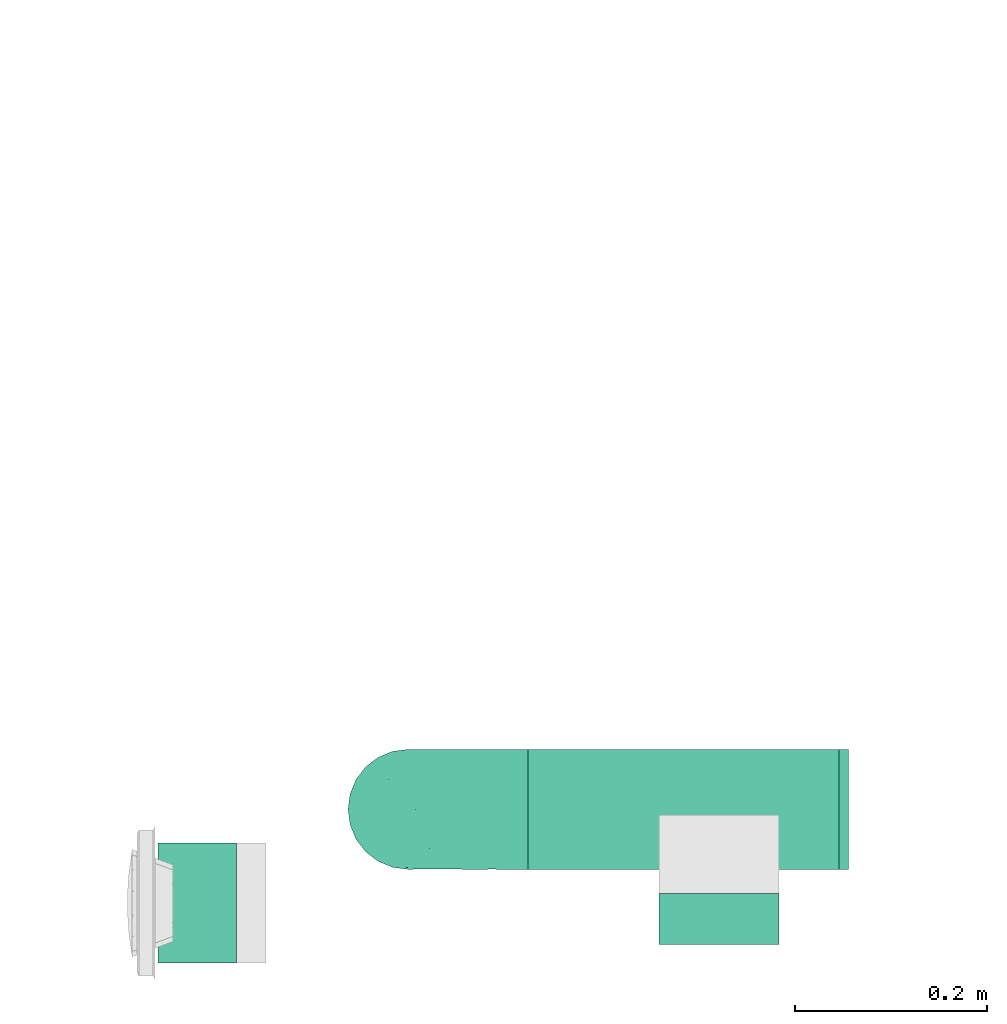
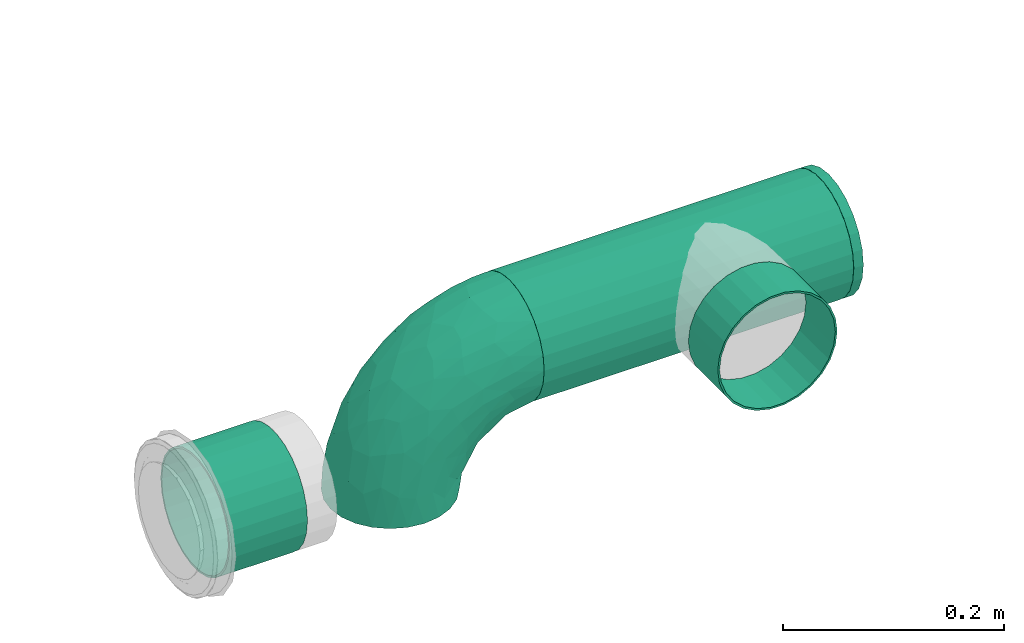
# One storey, part 4 of 63: 3 flow segments, 2 flow fittings.
"""IFC2X3 building model written with IfcOpenShell, lengths in millimetres."""

from ifc_helpers import new_model, entity, si_unit, converted_unit, derived_unit, direction, frame, origin_with_axes, origin_2d_with_axis, place, context, subcontext, project, spatial, hollow_circle, extrude, open_shell, surface_model, source, transform, mapped, type_object, element, save


model = new_model("IFC2X3")

# Units and contexts
model_context = context("Model", 3, precision=0.01, world=frame((0.0, 4.29681676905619e-09, 0.0)), true_north=direction((4.01073788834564e-13, 1.0)))
plan_context = context("Plan", 3, precision=0.01, world=frame((0.0, 4.29681676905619e-09, 0.0)), true_north=direction((4.01073788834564e-13, 1.0)))
body_context = subcontext(model_context, "Body", "Model", "MODEL_VIEW")
ifc_project = project(units=[converted_unit("PLANEANGLEUNIT", "DEGREE", entity("IfcPositiveLengthMeasure", 0.0174532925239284), si_unit("PLANEANGLEUNIT", "RADIAN"), dimensions=[0, 0, 0, 0, 0, 0, 0]), si_unit("AREAUNIT", "SQUARE_METRE"), si_unit("LENGTHUNIT", "METRE", prefix="MILLI"), si_unit("MASSUNIT", "GRAM", prefix="KILO"), si_unit("POWERUNIT", "WATT"), si_unit("PRESSUREUNIT", "PASCAL"), si_unit("FORCEUNIT", "NEWTON", prefix="KILO"), si_unit("ELECTRICVOLTAGEUNIT", "VOLT"), si_unit("ELECTRICCURRENTUNIT", "AMPERE"), si_unit("THERMODYNAMICTEMPERATUREUNIT", "DEGREE_CELSIUS"), si_unit("TIMEUNIT", "SECOND"), si_unit("VOLUMEUNIT", "CUBIC_METRE"), derived_unit("LINEARVELOCITYUNIT", [(si_unit("LENGTHUNIT", "METRE"), 1), (si_unit("TIMEUNIT", "SECOND"), -1)]), derived_unit("VOLUMETRICFLOWRATEUNIT", [(si_unit("VOLUMEUNIT", "CUBIC_METRE"), 1), (si_unit("TIMEUNIT", "SECOND"), -1)]), derived_unit("THERMALTRANSMITTANCEUNIT", [(si_unit("POWERUNIT", "WATT"), 1), (si_unit("THERMODYNAMICTEMPERATUREUNIT", "KELVIN"), -1), (si_unit("AREAUNIT", "SQUARE_METRE"), -1)]), derived_unit("SOUNDPRESSUREUNIT", [(si_unit("PRESSUREUNIT", "PASCAL"), 1)])], contexts=[model_context, plan_context])

# Site, building, storey
site_placement = place(None, frame((0.0, -4.29681676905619e-09, 0.0), z_axis=(0.0, 0.0, 1.0), x_axis=(1.0, 0.0, 0.0)))
site = spatial("IfcSite", under=ifc_project, at=site_placement, CompositionType="ELEMENT")
building_placement = place(site_placement, frame((0.0, 4.29681676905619e-09, 0.0), z_axis=(0.0, 0.0, 1.0), x_axis=(1.0, 0.0, 0.0)))
building = spatial("IfcBuilding", under=site, at=building_placement, Name="mc-building", CompositionType="ELEMENT")
storey_placement = place(building_placement, frame((0.0, 0.0, 210900.0), z_axis=(0.0, 0.0, 1.0), x_axis=(1.0, 0.0, 0.0)))
storey = spatial("IfcBuildingStorey", under=building, at=storey_placement, Name="Nivå F", CompositionType="ELEMENT", Elevation=210900.0)

# Flow fittings
duct_fitting_type_1 = type_object("IfcDuctFittingType", Name="magicirc_elbow_full_radius_001", PredefinedType="BEND")
shared_shape_1 = source(origin_with_axes(), body_context, "Body", "SurfaceModel", [
    surface_model("IfcShellBasedSurfaceModel", [(-125.0, 16.17619, -60.37037), (-125.0, 0.0, -62.5), (-125.0, 44.19417, -44.19417), (-125.0, 31.25, -54.12659), (-125.0, 60.37037, -16.17619), (-125.0, 54.12659, -31.25), (-125.0, -16.17619, -60.37037), (-125.0, -31.25, -54.12659), (-125.0, -44.19417, -44.19417), (-125.0, -54.12659, -31.25), (-125.0, -60.37037, -16.17619), (-125.0, -62.5, 0.0), (-125.0, 62.5, 0.0), (-125.0, -31.25, 54.12659), (-125.0, 60.37037, 16.17619), (-125.0, 54.12659, 31.25), (-125.0, 16.17619, 60.37037), (-125.0, 31.25, 54.12659), (-125.0, 44.19417, 44.19417), (-125.0, -54.12659, 31.25), (-125.0, -44.19417, 44.19417), (-125.0, -60.37037, 16.17619), (-125.0, -16.17619, 60.37037), (-125.0, 0.0, 62.5), (-44.19417, 125.0, -44.19417), (0.0, 125.0, -62.5), (-16.17619, 125.0, -60.37037), (-31.25, 125.0, -54.12659), (-54.12659, 125.0, -31.25), (-60.37037, 125.0, -16.17619), (16.17619, 125.0, -60.37037), (44.19417, 125.0, -44.19417), (31.25, 125.0, -54.12659), (60.37037, 125.0, -16.17619), (54.12659, 125.0, -31.25), (62.5, 125.0, 0.0), (44.19417, 125.0, 44.19417), (31.25, 125.0, 54.12659), (-62.5, 125.0, 0.0), (-60.37037, 125.0, 16.17619), (-54.12659, 125.0, 31.25), (-16.17619, 125.0, 60.37037), (-44.19417, 125.0, 44.19417), (-31.25, 125.0, 54.12659), (60.37037, 125.0, 16.17619), (54.12659, 125.0, 31.25), (0.0, 125.0, 62.5), (16.17619, 125.0, 60.37037), (-92.0149, -48.59662, 35.11543), (-82.31101, -36.10079, 46.59002), (-83.27732, -57.79898, 0.0), (21.5934, 8.09566, 0.0), (6.68953, -6.68953, 12.50062), (-8.09566, -21.5934, 0.0), (-85.18285, -54.95352, 19.72452), (-63.86862, 108.10791, 10.69753), (-72.65264, 88.16475, 13.64847), (-58.85933, 108.47697, 26.01876), (28.68805, 50.93011, 42.73586), (15.24994, 48.30376, 51.88115), (13.33611, 22.15566, 40.76355), (-28.58034, -33.18174, 16.61251), (-55.80927, -40.00167, 31.60254), (-55.92901, -46.21073, 18.75923), (-43.6468, -43.93166, 0.0), (-11.16429, 11.16428, 51.09905), (-91.91541, -23.64007, 56.2333), (-48.30376, -15.24994, 51.88115), (-62.2246, -0.56088, 60.57833), (-86.05221, 71.09173, 22.01563), (-76.29757, 73.71528, 30.99181), (-95.48, -8.27954, 61.43109), (-21.72166, 61.46244, 62.38786), (-46.29465, 46.29465, 60.98138), (-37.21568, 27.31198, 62.17805), (-96.3442, 24.51222, 59.0402), (-23.33012, 107.80836, 58.54242), (-8.56588, 93.49118, 62.34649), (-87.52028, 9.58041, 62.39347), (-90.8433, 62.14568, 32.36992), (-104.65631, 61.64741, 22.10298), (-108.67612, 63.76169, 10.43133), (-88.81041, 72.98575, 10.36437), (36.10079, 82.31101, 46.59002), (-22.15566, -13.33612, 40.76355), (-97.70214, 52.10141, 41.01675), (33.18174, 28.58034, 16.61251), (43.93166, 43.6468, 0.0), (-108.13323, 37.84893, 50.9265), (-16.31425, 41.86087, 61.36861), (-31.05498, 11.46575, 58.36241), (-6.38494, 33.76703, 57.43674), (23.64007, 91.91541, 56.2333), (8.27954, 95.48, 61.43109), (40.00167, 55.80927, 31.60254), (47.31258, 55.33607, 14.21495), (57.79898, 83.27732, 0.0), (54.95352, 85.18285, 19.72452), (48.59662, 92.0149, 35.11543), (-51.08394, 80.06201, 49.23756), (-51.34965, 100.68876, 40.68918), (-65.88145, 69.79931, 44.27158), (-67.25753, 101.08228, 0.0), (-66.7509, 56.0836, 51.93913), (-47.27423, 67.56375, 55.69769), (-80.80582, 80.80582, 0.0), (-101.08228, 67.25753, 0.0), (-27.0301, 84.68903, 59.52251), (-39.49549, 96.79785, 51.80473), (-4.68934, 4.68934, 43.22247), (2.91368, -2.91368, 27.95973), (-68.67967, 26.77168, 61.38152), (-61.32894, 15.31518, 62.47333), (-66.44476, 42.40788, 57.80884), (-86.06534, 42.42608, 52.63144), (-36.4073, 64.87811, 59.87196), (0.56088, 62.2246, 60.57833), (-50.92891, -28.66756, 42.755), (-64.50927, 88.5041, 30.85553), (-27.43118, -26.16339, 29.83954), (22.73426, 21.43212, 28.89237), (-90.73911, 40.97988, -52.27133), (-51.05944, -15.77315, -52.43613), (-54.27147, -0.77962, -59.44482), (-25.11169, -1.04586, -51.21226), (-98.94229, 7.90272, -62.29658), (-67.16143, 94.52638, -18.73917), (-96.1712, 24.53976, -59.04752), (-57.8841, 72.64103, -48.12601), (-44.50916, 76.42373, -54.27754), (-57.76281, 57.76281, -54.8772), (-107.28047, 64.03146, -11.08737), (-59.60363, -46.85882, -20.9596), (-91.17795, -55.95169, -20.37554), (-87.70528, 72.36167, -15.72738), (37.33987, 90.42119, -47.18844), (21.5694, 79.15007, -55.58604), (24.6394, 105.55614, -56.88213), (-98.81833, 51.80612, -40.89409), (-75.37655, 57.2746, -47.13743), (-29.56225, -32.61603, -19.86672), (2.63114, 29.35884, -52.12213), (-22.06401, 22.064, -59.01679), (-105.22465, -49.75349, -36.31269), (-39.22852, 98.11971, -51.7028), (-25.51302, 90.93127, -59.26694), (7.06321, 14.54725, -41.00964), (25.49531, 46.66577, -43.72165), (20.99941, 20.9078, -30.93535), (-90.42119, -37.33987, -47.18844), (-47.40462, -35.90659, -32.07933), (-105.55614, -24.6394, -56.88213), (0.77962, 54.27147, -59.44482), (12.91756, 53.35696, -54.59988), (7.88048, 92.08251, -61.35725), (-79.15007, -21.5694, -55.58604), (-92.08251, -7.88048, -61.35725), (-78.52964, -46.34869, -33.8522), (-68.20954, -28.53784, -49.07387), (46.34869, 78.52964, -33.8522), (46.85882, 59.60363, -20.9596), (35.90659, 47.40462, -32.07933), (-75.95077, 74.3101, -30.65772), (-100.92719, 60.72326, -27.00798), (2.91558, -2.91558, -27.95435), (6.69001, -6.69001, -12.49729), (32.61603, 29.56225, -19.86672), (-54.06785, 91.48679, -41.70621), (-58.74822, 101.55878, -30.19257), (-7.90272, 98.94229, -62.29658), (49.75349, 105.22465, -36.31269), (-14.77484, 68.85348, -62.48651), (-33.7955, 36.46996, -62.46452), (-36.98162, 59.24998, -60.63975), (55.95169, 91.17795, -20.37554), (-61.70769, 36.16979, -60.43635), (-23.35082, -23.18253, -30.24249), (-68.85348, 14.77484, -62.48651), (-16.60827, -10.64436, -39.25753), (-46.66577, -25.49531, -43.72165), (-69.70063, 70.78468, -40.55271)], [open_shell([[[0, 1, 2]], [[3, 0, 2]], [[4, 5, 2]], [[6, 2, 1]], [[4, 2, 6]], [[7, 8, 6]], [[8, 4, 6]], [[9, 10, 8]], [[11, 8, 10]], [[8, 11, 4]], [[11, 12, 4]], [[12, 13, 14]], [[15, 14, 16]], [[16, 17, 18]], [[15, 16, 18]], [[16, 14, 13]], [[19, 20, 21]], [[21, 20, 11]], [[22, 23, 13]], [[20, 13, 11]], [[13, 23, 16]], [[13, 12, 11]], [[24, 25, 26]], [[24, 26, 27]], [[24, 28, 29]], [[25, 24, 30]], [[30, 24, 29]], [[30, 31, 32]], [[30, 29, 31]], [[31, 33, 34]], [[33, 31, 35]], [[31, 36, 35]], [[31, 29, 37]], [[38, 39, 40]], [[38, 40, 41]], [[42, 43, 41]], [[42, 41, 40]], [[38, 41, 37]], [[44, 36, 45]], [[35, 36, 44]], [[37, 46, 47]], [[31, 37, 36]], [[41, 46, 37]], [[29, 38, 37]], [[20, 48, 49]], [[21, 11, 50]], [[51, 52, 53]], [[54, 19, 21]], [[50, 54, 21]], [[55, 56, 57]], [[19, 48, 20]], [[58, 59, 60]], [[61, 62, 63]], [[61, 63, 64]], [[20, 49, 13]], [[61, 64, 53]], [[65, 60, 59]], [[66, 67, 68]], [[56, 69, 70]], [[71, 23, 22]], [[72, 73, 74]], [[17, 16, 75]], [[66, 13, 49]], [[41, 76, 77]], [[23, 78, 16]], [[15, 79, 80]], [[81, 12, 14]], [[69, 82, 81]], [[83, 36, 37]], [[65, 67, 84]], [[18, 85, 15]], [[86, 51, 87]], [[18, 17, 88]], [[89, 90, 91]], [[83, 37, 92]], [[69, 81, 80]], [[93, 47, 46]], [[94, 86, 95]], [[96, 97, 95]], [[96, 44, 97]], [[98, 97, 45]], [[46, 41, 77]], [[63, 50, 64]], [[44, 45, 97]], [[83, 94, 98]], [[45, 36, 98]], [[99, 100, 101]], [[55, 102, 56]], [[39, 57, 40]], [[44, 96, 35]], [[48, 54, 62]], [[79, 70, 69]], [[99, 103, 104]], [[38, 102, 55]], [[23, 71, 78]], [[56, 105, 82]], [[18, 88, 85]], [[102, 105, 56]], [[92, 37, 47]], [[57, 100, 40]], [[82, 105, 106]], [[107, 108, 104]], [[109, 110, 60]], [[107, 72, 77]], [[13, 66, 22]], [[108, 107, 76]], [[76, 41, 43]], [[43, 42, 108]], [[83, 92, 59]], [[95, 86, 87]], [[111, 112, 74]], [[75, 16, 78]], [[113, 75, 111]], [[103, 85, 114]], [[80, 79, 69]], [[100, 42, 40]], [[115, 104, 73]], [[107, 115, 72]], [[93, 77, 116]], [[67, 66, 49]], [[71, 66, 68]], [[67, 117, 84]], [[67, 65, 90]], [[93, 92, 47]], [[116, 91, 59]], [[116, 59, 92]], [[109, 60, 65]], [[54, 48, 19]], [[49, 48, 62]], [[83, 98, 36]], [[97, 98, 94]], [[111, 75, 78]], [[88, 75, 114]], [[81, 82, 106]], [[56, 82, 69]], [[12, 81, 106]], [[81, 14, 80]], [[14, 15, 80]], [[79, 15, 85]], [[85, 101, 79]], [[70, 101, 118]], [[108, 99, 104]], [[113, 103, 114]], [[111, 74, 73]], [[116, 77, 72]], [[90, 74, 68]], [[72, 74, 89]], [[77, 93, 46]], [[92, 93, 116]], [[66, 71, 22]], [[78, 71, 68]], [[101, 100, 118]], [[108, 42, 100]], [[52, 61, 53]], [[119, 110, 84]], [[94, 58, 120]], [[86, 120, 52]], [[117, 67, 49]], [[61, 119, 62]], [[120, 60, 110]], [[83, 58, 94]], [[111, 78, 112]], [[113, 111, 73]], [[104, 113, 73]], [[75, 113, 114]], [[104, 103, 113]], [[85, 103, 101]], [[78, 68, 112]], [[68, 74, 112]], [[101, 70, 79]], [[56, 70, 118]], [[67, 90, 68]], [[91, 90, 65]], [[59, 91, 65]], [[89, 91, 116]], [[72, 89, 116]], [[90, 89, 74]], [[57, 56, 118]], [[38, 55, 39]], [[86, 52, 51]], [[61, 52, 110]], [[75, 88, 17]], [[85, 88, 114]], [[108, 76, 43]], [[77, 76, 107]], [[55, 57, 39]], [[100, 57, 118]], [[72, 115, 73]], [[107, 104, 115]], [[100, 99, 108]], [[103, 99, 101]], [[62, 54, 63]], [[63, 54, 50]], [[96, 95, 87]], [[94, 95, 97]], [[49, 62, 117]], [[119, 117, 62]], [[110, 119, 61]], [[117, 119, 84]], [[65, 84, 109]], [[110, 109, 84]], [[52, 120, 110]], [[94, 120, 86]], [[59, 58, 83]], [[120, 58, 60]], [[2, 121, 3]], [[122, 123, 124]], [[1, 0, 125]], [[126, 102, 38]], [[3, 127, 0]], [[128, 129, 130]], [[106, 131, 12]], [[132, 50, 133]], [[106, 134, 131]], [[135, 136, 137]], [[138, 139, 121]], [[64, 140, 53]], [[141, 124, 142]], [[121, 2, 138]], [[133, 9, 143]], [[144, 27, 145]], [[50, 11, 10]], [[146, 147, 148]], [[149, 8, 7]], [[140, 132, 150]], [[151, 149, 7]], [[141, 152, 153]], [[30, 154, 25]], [[133, 10, 9]], [[143, 9, 8]], [[155, 156, 123]], [[157, 149, 158]], [[7, 6, 151]], [[156, 6, 1]], [[159, 160, 161]], [[105, 134, 106]], [[64, 50, 132]], [[126, 162, 134]], [[138, 163, 162]], [[29, 126, 38]], [[140, 164, 165]], [[166, 87, 51]], [[167, 168, 28]], [[162, 126, 168]], [[32, 31, 135]], [[154, 30, 137]], [[26, 169, 145]], [[127, 3, 121]], [[169, 26, 25]], [[31, 34, 170]], [[27, 144, 24]], [[26, 145, 27]], [[30, 32, 137]], [[87, 166, 160]], [[165, 166, 51]], [[171, 172, 173]], [[142, 152, 141]], [[165, 51, 53]], [[156, 155, 151]], [[136, 135, 147]], [[34, 33, 174]], [[35, 96, 33]], [[175, 127, 121]], [[2, 5, 138]], [[174, 159, 170]], [[176, 140, 150]], [[171, 154, 152]], [[126, 105, 102]], [[28, 24, 167]], [[173, 145, 171]], [[131, 163, 4]], [[128, 144, 129]], [[139, 128, 130]], [[174, 160, 159]], [[170, 135, 31]], [[147, 135, 159]], [[152, 154, 136]], [[169, 154, 171]], [[153, 147, 141]], [[152, 142, 172]], [[33, 96, 174]], [[160, 96, 87]], [[155, 122, 158]], [[143, 149, 157]], [[125, 156, 1]], [[177, 172, 123]], [[177, 123, 156]], [[123, 142, 124]], [[133, 157, 132]], [[50, 10, 133]], [[126, 134, 105]], [[168, 29, 28]], [[163, 5, 4]], [[121, 139, 130]], [[175, 121, 130]], [[125, 127, 177]], [[145, 173, 129]], [[167, 24, 144]], [[147, 146, 141]], [[178, 124, 146]], [[124, 141, 146]], [[124, 179, 122]], [[162, 163, 134]], [[138, 5, 163]], [[127, 125, 0]], [[156, 125, 177]], [[154, 169, 25]], [[145, 169, 171]], [[147, 161, 148]], [[146, 164, 178]], [[176, 164, 140]], [[124, 178, 179]], [[171, 152, 172]], [[175, 130, 173]], [[123, 172, 142]], [[175, 172, 177]], [[172, 175, 173]], [[127, 175, 177]], [[162, 180, 138]], [[180, 167, 128]], [[160, 174, 96]], [[161, 160, 166]], [[161, 166, 148]], [[147, 159, 161]], [[166, 164, 148]], [[164, 146, 148]], [[150, 132, 157]], [[64, 132, 140]], [[157, 179, 150]], [[176, 179, 178]], [[180, 128, 139]], [[144, 128, 167]], [[145, 129, 144]], [[173, 130, 129]], [[138, 180, 139]], [[167, 180, 162]], [[179, 176, 150]], [[164, 176, 178]], [[140, 165, 53]], [[166, 165, 164]], [[163, 131, 134]], [[12, 131, 4]], [[135, 137, 32]], [[154, 137, 136]], [[174, 170, 34]], [[135, 170, 159]], [[156, 151, 6]], [[149, 151, 155]], [[149, 143, 8]], [[133, 143, 157]], [[162, 168, 167]], [[29, 168, 126]], [[152, 136, 153]], [[147, 153, 136]], [[158, 122, 179]], [[123, 122, 155]], [[157, 158, 179]], [[155, 158, 149]]])]),
])
flow_fitting_1_placement = place(storey_placement, frame((522623.16875, 440892.96265, 2163.0), z_axis=(0.0, -1.0, 0.0), x_axis=(-1.0, 0.0, 0.0)))
element("IfcFlowFitting", 1, at=flow_fitting_1_placement, inside=storey, type_object=duct_fitting_type_1, Name="magicirc_elbow_full_radius_001", context=body_context, shape_type="MappedRepresentation", body=[
    mapped(shared_shape_1, transform((0.0, 0.0, 0.0), scale=1.0)),
])
duct_fitting_type_2 = type_object("IfcDuctFittingType", Name="magicirc_plug_001", PredefinedType="OBSTRUCTION")
shared_shape_2 = source(origin_with_axes(), body_context, "Body", "SurfaceModel", [
    surface_model("IfcShellBasedSurfaceModel", [(0.0, 0.0, -62.5), (0.0, -16.17619, -60.37037), (0.0, 16.17619, -60.37037), (0.0, 31.25, -54.12659), (0.0, 54.12659, -31.25), (0.0, 44.19417, -44.19417), (0.0, 60.37037, -16.17619), (0.0, -31.25, -54.12659), (0.0, -44.19417, -44.19417), (0.0, -62.5, 0.0), (0.0, -54.12659, -31.25), (0.0, -60.37037, -16.17619), (0.0, 62.5, 0.0), (0.0, 60.37037, 16.17619), (0.0, 44.19417, 44.19417), (0.0, 54.12659, 31.25), (0.0, 31.25, 54.12659), (0.0, -54.12659, 31.25), (0.0, -16.17619, 60.37037), (0.0, 16.17619, 60.37037), (0.0, -44.19417, 44.19417), (0.0, -31.25, 54.12659), (0.0, -60.37037, 16.17619), (0.0, 0.0, 62.5), (10.0, 16.17619, -60.37037), (10.0, -16.17619, -60.37037), (10.0, 0.0, -62.5), (10.0, 44.19417, -44.19417), (10.0, 31.25, -54.12659), (10.0, 54.12659, -31.25), (10.0, 60.37037, -16.17619), (10.0, -44.19417, -44.19417), (10.0, -31.25, -54.12659), (10.0, -62.5, 0.0), (10.0, -60.37037, -16.17619), (10.0, -54.12659, -31.25), (10.0, -54.12659, 31.25), (10.0, 44.19417, 44.19417), (10.0, 62.5, 0.0), (10.0, 60.37037, 16.17619), (10.0, 54.12659, 31.25), (10.0, 31.25, 54.12659), (10.0, 16.17619, 60.37037), (10.0, -16.17619, 60.37037), (10.0, -31.25, 54.12659), (10.0, -44.19417, 44.19417), (10.0, -60.37037, 16.17619), (10.0, 0.0, 62.5)], [open_shell([[[0, 1, 2]], [[3, 2, 4]], [[4, 2, 1]], [[5, 3, 4]], [[6, 4, 1]], [[7, 8, 1]], [[9, 1, 8]], [[10, 11, 8]], [[9, 8, 11]], [[9, 6, 1]], [[9, 12, 6]], [[13, 12, 14]], [[15, 13, 14]], [[16, 14, 17]], [[9, 17, 14]], [[16, 18, 19]], [[20, 21, 17]], [[17, 9, 22]], [[21, 18, 17]], [[17, 18, 16]], [[18, 23, 19]], [[14, 12, 9]], [[24, 25, 26]], [[27, 24, 28]], [[25, 24, 29]], [[29, 24, 27]], [[25, 29, 30]], [[25, 31, 32]], [[31, 25, 33]], [[31, 34, 35]], [[34, 31, 33]], [[25, 30, 33]], [[30, 36, 33]], [[37, 38, 39]], [[37, 39, 40]], [[37, 41, 42]], [[38, 37, 43]], [[43, 37, 42]], [[36, 44, 45]], [[46, 33, 36]], [[38, 44, 36]], [[43, 44, 38]], [[42, 47, 43]], [[36, 30, 38]], [[46, 9, 33]], [[36, 22, 46]], [[20, 45, 44]], [[36, 45, 17]], [[21, 44, 43]], [[36, 17, 22]], [[22, 9, 46]], [[18, 47, 23]], [[18, 21, 43]], [[20, 44, 21]], [[20, 17, 45]], [[47, 18, 43]], [[41, 19, 42]], [[37, 16, 41]], [[15, 40, 39]], [[37, 40, 14]], [[13, 39, 38]], [[41, 16, 19]], [[19, 23, 42]], [[13, 15, 39]], [[14, 40, 15]], [[14, 16, 37]], [[12, 13, 38]], [[42, 23, 47]], [[30, 12, 38]], [[29, 6, 30]], [[5, 27, 28]], [[29, 27, 4]], [[3, 28, 24]], [[29, 4, 6]], [[6, 12, 30]], [[2, 26, 0]], [[2, 3, 24]], [[5, 28, 3]], [[5, 4, 27]], [[26, 2, 24]], [[32, 1, 25]], [[31, 7, 32]], [[10, 35, 34]], [[31, 35, 8]], [[11, 34, 33]], [[32, 7, 1]], [[1, 0, 25]], [[11, 10, 34]], [[8, 35, 10]], [[8, 7, 31]], [[9, 11, 33]], [[25, 0, 26]]])]),
])
flow_fitting_2_placement = place(storey_placement, frame((523071.94497, 440892.96265, 2163.0), z_axis=(0.0, 0.0, 1.0), x_axis=(1.0, 0.0, 0.0)))
element("IfcFlowFitting", 2, at=flow_fitting_2_placement, inside=storey, type_object=duct_fitting_type_2, Name="magicirc_plug_001", context=body_context, shape_type="MappedRepresentation", body=[
    mapped(shared_shape_2, transform((0.0, 0.0, 0.0), scale=1.0)),
])

# Flow segments
duct_segment_type = type_object("IfcDuctSegmentType", Name="KK001T - Spiro kanaler, Forsinket stål", PredefinedType="RIGIDSEGMENT")
shared_shape_3 = source(origin_with_axes(), body_context, "Body", "SweptSolid", [
    extrude(hollow_circle(Radius=62.5, WallThickness=2.0, at=origin_2d_with_axis()), frame((0.0, 0.0, 0.0), z_axis=(1.0, 0.0, 0.0), x_axis=(0.0, 1.0, 0.0)), (0.0, 0.0, 1.0), 53.2),
])
flow_segment_1_placement = place(storey_placement, frame((522946.94464, 440805.46265, 2163.0), z_axis=(0.0, 0.0, 1.0), x_axis=(0.0, -1.0, 0.0)))
element("IfcFlowSegment", 3, at=flow_segment_1_placement, inside=storey, type_object=duct_segment_type, Name="KK001T - Spiro kanaler, Forsinket stål", context=body_context, shape_type="MappedRepresentation", body=[
    mapped(shared_shape_3, transform((0.0, 0.0, 0.0), scale=1.0)),
])
shared_shape_4 = source(origin_with_axes(), body_context, "Body", "SweptSolid", [
    extrude(hollow_circle(Radius=62.5, WallThickness=2.0, at=origin_2d_with_axis()), frame((0.0, 0.0, 0.0), z_axis=(1.0, 0.0, 0.0), x_axis=(0.0, 1.0, 0.0)), (0.0, 0.0, 1.0), 323.8),
])
flow_segment_2_placement = place(storey_placement, frame((522748.16875, 440892.96265, 2163.0), z_axis=(0.0, 0.0, 1.0), x_axis=(1.0, 0.0, 0.0)))
element("IfcFlowSegment", 4, at=flow_segment_2_placement, inside=storey, type_object=duct_segment_type, Name="KK001T - Spiro kanaler, Forsinket stål", context=body_context, shape_type="MappedRepresentation", body=[
    mapped(shared_shape_4, transform((0.0, 0.0, 0.0), scale=1.0)),
])
shared_shape_5 = source(origin_with_axes(), body_context, "Body", "SweptSolid", [
    extrude(hollow_circle(Radius=62.5, WallThickness=2.0, at=origin_2d_with_axis()), frame((0.0, 0.0, 0.0), z_axis=(1.0, 0.0, 0.0), x_axis=(0.0, 1.0, 0.0)), (0.0, 0.0, 1.0), 81.5),
])
flow_segment_3_placement = place(storey_placement, frame((522362.76042, 440795.19231, 2163.0), z_axis=(0.0, 0.0, 1.0), x_axis=(1.0, 0.0, 0.0)))
element("IfcFlowSegment", 5, at=flow_segment_3_placement, inside=storey, type_object=duct_segment_type, Name="KK001T - Spiro kanaler, Forsinket stål", context=body_context, shape_type="MappedRepresentation", body=[
    mapped(shared_shape_5, transform((0.0, 0.0, 0.0), scale=1.0)),
])

save(model, "model.ifc")
